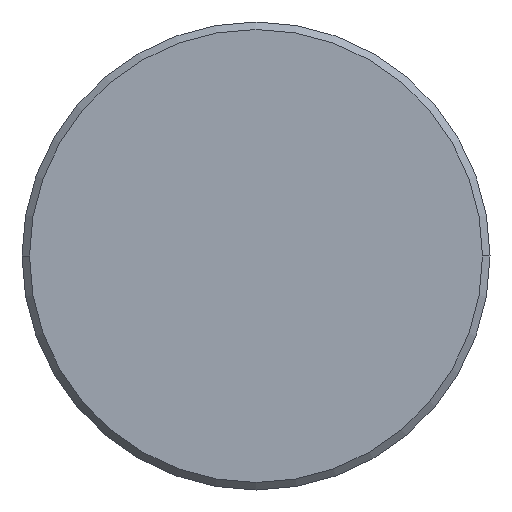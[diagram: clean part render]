
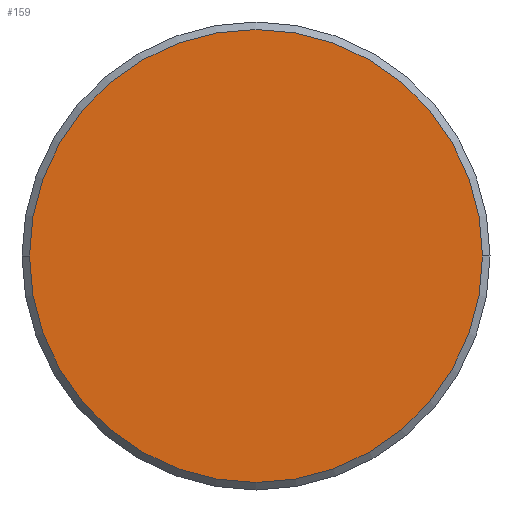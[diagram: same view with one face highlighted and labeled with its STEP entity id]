
A CAD part, left-side view. The second image highlights one B-rep face of the part: STEP entity #159.
In plain terms, the highlighted planar face has unit normal (-1, 0, 0).
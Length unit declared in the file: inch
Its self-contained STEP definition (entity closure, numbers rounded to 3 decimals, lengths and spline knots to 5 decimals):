
#3 = CIRCLE ( 'NONE', #369, 0.121 ) ;
#19 = VERTEX_POINT ( 'NONE', #358 ) ;
#80 = CARTESIAN_POINT ( 'NONE',  ( 0., 0.121, 0. ) ) ;
#81 = AXIS2_PLACEMENT_3D ( 'NONE', #314, #311, #291 ) ;
#86 = DIRECTION ( 'NONE',  ( -1., 0., 0. ) ) ;
#103 = FACE_OUTER_BOUND ( 'NONE', #297, .T. ) ;
#109 = ORIENTED_EDGE ( 'NONE', *, *, #254, .T. ) ;
#112 = CARTESIAN_POINT ( 'NONE',  ( 0., 0., 0. ) ) ;
#135 = AXIS2_PLACEMENT_3D ( 'NONE', #294, #142, #379 ) ;
#142 = DIRECTION ( 'NONE',  ( -1., 0., 0. ) ) ;
#159 = ADVANCED_FACE ( 'NONE', ( #103 ), #282, .T. ) ;
#183 = VERTEX_POINT ( 'NONE', #80 ) ;
#254 = EDGE_CURVE ( 'NONE', #183, #19, #309, .T. ) ;
#265 = ORIENTED_EDGE ( 'NONE', *, *, #283, .T. ) ;
#282 = PLANE ( 'NONE',  #81 ) ;
#283 = EDGE_CURVE ( 'NONE', #19, #183, #3, .T. ) ;
#291 = DIRECTION ( 'NONE',  ( 0., -1., 0. ) ) ;
#293 = DIRECTION ( 'NONE',  ( 0., -1., 0. ) ) ;
#294 = CARTESIAN_POINT ( 'NONE',  ( 0., 0., 0. ) ) ;
#297 = EDGE_LOOP ( 'NONE', ( #109, #265 ) ) ;
#309 = CIRCLE ( 'NONE', #135, 0.121 ) ;
#311 = DIRECTION ( 'NONE',  ( -1., 0., 0. ) ) ;
#314 = CARTESIAN_POINT ( 'NONE',  ( 0., 0., 0. ) ) ;
#358 = CARTESIAN_POINT ( 'NONE',  ( 0., -0.121, 0. ) ) ;
#369 = AXIS2_PLACEMENT_3D ( 'NONE', #112, #86, #293 ) ;
#379 = DIRECTION ( 'NONE',  ( 0., -1., 0. ) ) ;
